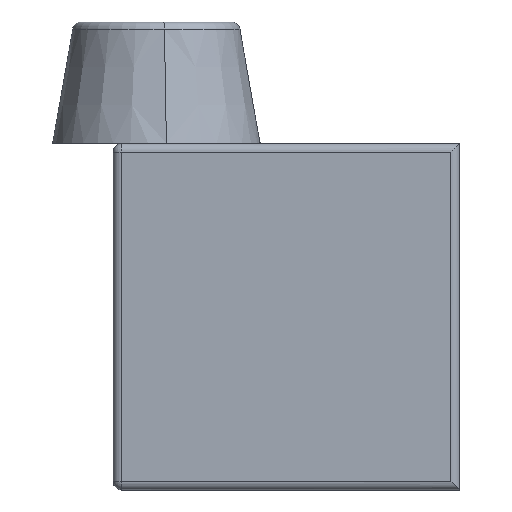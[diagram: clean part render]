
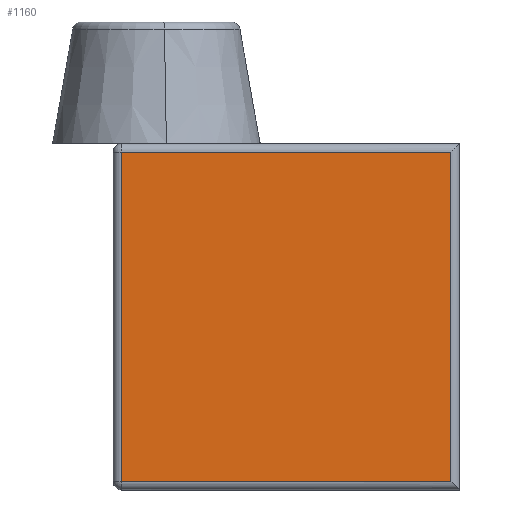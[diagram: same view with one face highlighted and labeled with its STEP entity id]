
A CAD part, left-side view. The second image highlights one B-rep face of the part: STEP entity #1160.
In plain terms, the highlighted planar face has unit normal (-1, 0, 0).
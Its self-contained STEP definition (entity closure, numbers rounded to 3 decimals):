
#193 = DIRECTION ( 'NONE',  ( 0., -1., 0. ) ) ;
#508 = EDGE_CURVE ( 'NONE', #1648, #576, #3815, .T. ) ;
#527 = CARTESIAN_POINT ( 'NONE',  ( 18.55, 3.636, 497.28 ) ) ;
#576 = VERTEX_POINT ( 'NONE', #5164 ) ;
#748 = DIRECTION ( 'NONE',  ( 0., 0., -1. ) ) ;
#792 = CARTESIAN_POINT ( 'NONE',  ( 18.55, 3.136, 516.28 ) ) ;
#861 = VERTEX_POINT ( 'NONE', #915 ) ;
#915 = CARTESIAN_POINT ( 'NONE',  ( 18.55, 22.636, 516.28 ) ) ;
#972 = EDGE_CURVE ( 'NONE', #861, #6030, #3165, .T. ) ;
#1160 = ADVANCED_FACE ( 'NONE', ( #2704 ), #4008, .F. ) ;
#1388 = ORIENTED_EDGE ( 'NONE', *, *, #6897, .T. ) ;
#1505 = ORIENTED_EDGE ( 'NONE', *, *, #4421, .T. ) ;
#1564 = DIRECTION ( 'NONE',  ( 0., 0., -1. ) ) ;
#1567 = ORIENTED_EDGE ( 'NONE', *, *, #972, .T. ) ;
#1648 = VERTEX_POINT ( 'NONE', #527 ) ;
#2091 = DIRECTION ( 'NONE',  ( 0., 1., 0. ) ) ;
#2704 = FACE_OUTER_BOUND ( 'NONE', #6750, .T. ) ;
#3165 = LINE ( 'NONE', #5083, #5630 ) ;
#3329 = CARTESIAN_POINT ( 'NONE',  ( 18.55, 3.136, 516.78 ) ) ;
#3410 = DIRECTION ( 'NONE',  ( 1., 0., 0. ) ) ;
#3728 = DIRECTION ( 'NONE',  ( 0., 0., 1. ) ) ;
#3815 = LINE ( 'NONE', #8217, #5793 ) ;
#4008 = PLANE ( 'NONE',  #5019 ) ;
#4421 = EDGE_CURVE ( 'NONE', #576, #861, #7230, .T. ) ;
#5019 = AXIS2_PLACEMENT_3D ( 'NONE', #3329, #3410, #1564 ) ;
#5083 = CARTESIAN_POINT ( 'NONE',  ( 18.55, 22.636, 516.78 ) ) ;
#5164 = CARTESIAN_POINT ( 'NONE',  ( 18.55, 3.636, 516.28 ) ) ;
#5420 = LINE ( 'NONE', #6010, #6288 ) ;
#5630 = VECTOR ( 'NONE', #748, 1000. ) ;
#5793 = VECTOR ( 'NONE', #3728, 1000. ) ;
#6010 = CARTESIAN_POINT ( 'NONE',  ( 18.55, 3.136, 497.28 ) ) ;
#6030 = VERTEX_POINT ( 'NONE', #6475 ) ;
#6288 = VECTOR ( 'NONE', #193, 1000. ) ;
#6475 = CARTESIAN_POINT ( 'NONE',  ( 18.55, 22.636, 497.28 ) ) ;
#6750 = EDGE_LOOP ( 'NONE', ( #7783, #1505, #1567, #1388 ) ) ;
#6897 = EDGE_CURVE ( 'NONE', #6030, #1648, #5420, .T. ) ;
#7230 = LINE ( 'NONE', #792, #7672 ) ;
#7672 = VECTOR ( 'NONE', #2091, 1000. ) ;
#7783 = ORIENTED_EDGE ( 'NONE', *, *, #508, .T. ) ;
#8217 = CARTESIAN_POINT ( 'NONE',  ( 18.55, 3.636, 516.78 ) ) ;
